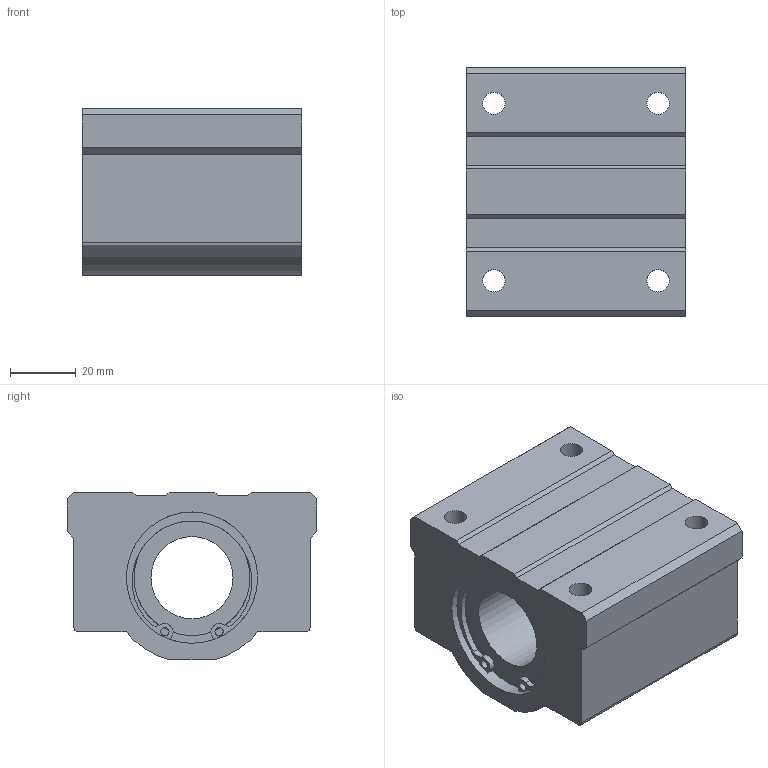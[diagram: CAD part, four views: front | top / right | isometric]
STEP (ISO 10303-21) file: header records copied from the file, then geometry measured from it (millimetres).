
FILE_DESCRIPTION((''),'2;1');
FILE_NAME('D:\製品 (図面)\カタログ用3D\リニアベアリング関連(改)\STEP形式\LH-B\LH25B.stp','2010-01-25T10:20:41',('Tsuchiya'),(''),'Autodesk Inventor 10','Autodesk Inventor 10','');
FILE_SCHEMA(('AUTOMOTIVE_DESIGN { 1 0 10303 214 1 1 1 1 }'));
Length unit declared in the file: millimetre
Products named in the file (1): LH25B
Bounding box: 67 x 76 x 51 mm (x, y, z)
Volume: 179033.2 mm3; surface area: 32171.9 mm2
Topology: 1 solids, 3 shells, 81 faces, 215 edges, 138 vertices
Faces by surface type: plane 44, cylinder 20, bspline 17
Full cylindrical faces by diameter (mm): 2.5 x2, 25 x1, 35.3 x2, 38 x2, 40 x4
Entity records: 2552 total; most frequent: CARTESIAN_POINT 599, DIRECTION 414, ORIENTED_EDGE 372, EDGE_CURVE 186, AXIS2_PLACEMENT_3D 163, VERTEX_POINT 126, EDGE_LOOP 118, CIRCLE 98
